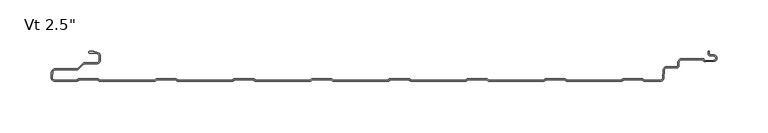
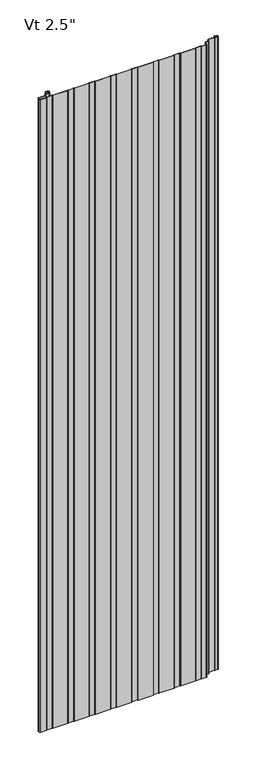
"""IFC4 building model written with IfcOpenShell, lengths in millimetres: plate geometry."""

from ifc_helpers import new_model, si_unit, point, frame_2d, origin, origin_with_axes, place, context, project, spatial, polyline, circle_curve, trimmed, segment, composite_curve, outline, extrude, source, transform, mapped, element, save


def plate_8e5ef11d(model_context):
    return source(origin(), model_context, "Body", "SweptSolid", [
        extrude(outline(composite_curve([segment(polyline([(-315.4415934, -63.4997378), (-337.2521176, -63.4997378)]), True, "CONTINUOUS"), segment(trimmed(circle_curve(frame_2d((-337.2521176, -59.9294985)), 3.5702393), [point((-337.2521176, -63.4997378))], [point((-340.808762, -59.6182281))], False, "CARTESIAN"), True, "CONTINUOUS"), segment(polyline([(-340.808762, -59.6182281), (-340.3690675, -54.5941815)]), True, "CONTINUOUS"), segment(trimmed(circle_curve(frame_2d((-336.7198392, -55.2049826)), 3.6999926), [point((-340.3690675, -54.5941815))], [point((-336.7198392, -51.50499))], False, "CARTESIAN"), True, "CONTINUOUS"), segment(polyline([(-336.7198392, -51.50499), (-315.5773997, -51.50499)]), True, "CONTINUOUS"), segment(trimmed(circle_curve(frame_2d((-315.5773997, -50.2049926)), 1.2999974), [point((-315.5773997, -51.50499))], [point((-314.6581627, -51.1242296))], True, "CARTESIAN"), True, "CONTINUOUS"), segment(polyline([(-314.6581627, -51.1242296), (-309.8297453, -46.2958121)]), True, "CONTINUOUS"), segment(trimmed(circle_curve(frame_2d((-307.9205608, -48.2049966)), 2.6999946), [point((-309.8297453, -46.2958121))], [point((-307.9205608, -45.505002))], False, "CARTESIAN"), True, "CONTINUOUS"), segment(polyline([(-307.9205608, -45.505002), (-296.1096717, -45.505002)]), True, "CONTINUOUS"), segment(trimmed(circle_curve(frame_2d((-296.1096717, -43.1550067)), 2.3499953), [point((-296.1096717, -45.505002))], [point((-293.7596764, -43.1550067))], True, "CARTESIAN"), True, "CONTINUOUS"), segment(polyline([(-293.7596764, -43.1550067), (-293.7596764, -38.7550155)]), True, "CONTINUOUS"), segment(trimmed(circle_curve(frame_2d((-296.1096717, -38.7550155)), 2.3499953), [point((-293.7596764, -38.7550155))], [point((-296.1096717, -36.4050202))], True, "CARTESIAN"), True, "CONTINUOUS"), segment(polyline([(-296.1096717, -36.4050202), (-302.6289779, -36.4050202)]), True, "CONTINUOUS"), segment(trimmed(circle_curve(frame_2d((-302.5686908, -35.206538)), 1.1999976), [point((-302.6289779, -36.4050202))], [point((-303.7683001, -35.1760161))], False, "CARTESIAN"), True, "CONTINUOUS"), segment(trimmed(circle_curve(frame_2d((-302.5686908, -35.206538)), 1.1999976), [point((-303.7683001, -35.1760161))], [point((-302.5671761, -34.0065413))], False, "CARTESIAN"), True, "CONTINUOUS"), segment(polyline([(-302.5671761, -34.0065413), (-298.8087827, -34.0065413), (-298.8087827, -35.4050202), (-296.1096717, -35.4050202)]), True, "CONTINUOUS"), segment(trimmed(circle_curve(frame_2d((-296.1096717, -38.7550155)), 3.3499953), [point((-296.1096717, -35.4050202))], [point((-292.7596764, -38.7550155))], False, "CARTESIAN"), True, "CONTINUOUS"), segment(polyline([(-292.7596764, -38.7550155), (-292.7596764, -43.1550067)]), True, "CONTINUOUS"), segment(trimmed(circle_curve(frame_2d((-296.1096717, -43.1550067)), 3.3499953), [point((-292.7596764, -43.1550067))], [point((-296.1096717, -46.505002))], False, "CARTESIAN"), True, "CONTINUOUS"), segment(polyline([(-296.1096717, -46.505002), (-307.9205608, -46.505002)]), True, "CONTINUOUS"), segment(trimmed(circle_curve(frame_2d((-307.9205608, -48.2049966)), 1.6999946), [point((-307.9205608, -46.505002))], [point((-309.1226385, -47.0029189))], True, "CARTESIAN"), True, "CONTINUOUS"), segment(polyline([(-309.1226385, -47.0029189), (-314.6247096, -52.50499), (-336.7198392, -52.50499)]), True, "CONTINUOUS"), segment(trimmed(circle_curve(frame_2d((-336.7198392, -55.2049826)), 2.6999926), [point((-336.7198392, -52.50499))], [point((-339.3765709, -54.723592))], True, "CARTESIAN"), True, "CONTINUOUS"), segment(polyline([(-339.3765709, -54.723592), (-339.8125699, -59.7054129)]), True, "CONTINUOUS"), segment(trimmed(circle_curve(frame_2d((-337.2521176, -59.9294985)), 2.5702393), [point((-339.8125699, -59.7054129))], [point((-337.2521176, -62.4997378))], True, "CARTESIAN"), True, "CONTINUOUS"), segment(polyline([(-337.2521176, -62.4997378), (-315.2790962, -62.4997378), (-314.0791277, -61.2997693), (-294.3597151, -61.2997693), (-293.1594844, -62.5), (-239.0793527, -62.5), (-237.879122, -61.2997693), (-218.1597095, -61.2997693), (-216.9594787, -62.5), (-162.879347, -62.5), (-161.6791163, -61.2997693), (-141.9597038, -61.2997693), (-140.7594731, -62.5), (-86.6793413, -62.5), (-85.4791106, -61.2997693), (-65.7596981, -61.2997693), (-64.5594674, -62.5), (-10.4793356, -62.5), (-9.2791049, -61.2997693), (10.4403076, -61.2997693), (11.6405383, -62.5), (65.7206701, -62.5), (66.9209008, -61.2997693), (86.6403133, -61.2997693), (87.840544, -62.5), (141.9206758, -62.5), (143.1209065, -61.2997693), (162.840319, -61.2997693), (164.0405497, -62.5), (218.1206815, -62.5), (219.3209122, -61.2997693), (239.0403247, -61.2997693), (240.2396538, -62.4990984), (256.3384359, -62.4990984)]), True, "CONTINUOUS"), segment(trimmed(circle_curve(frame_2d((256.3384359, -60.5491043)), 1.9499941), [point((256.3384359, -62.4990984))], [point((258.2810097, -60.7190575))], True, "CARTESIAN"), True, "CONTINUOUS"), segment(polyline([(258.2810097, -60.7190575), (259.0215397, -52.254761)]), True, "CONTINUOUS"), segment(trimmed(circle_curve(frame_2d((262.0400056, -52.5188426)), 3.0299959), [point((259.0215397, -52.254761))], [point((262.1657441, -49.4914567))], False, "CARTESIAN"), True, "CONTINUOUS"), segment(polyline([(262.1657441, -49.4914567), (272.2595941, -49.4914567)]), True, "CONTINUOUS"), segment(trimmed(circle_curve(frame_2d((272.2595941, -48.5423033)), 0.9491534), [point((272.2595941, -49.4914567))], [point((273.2087475, -48.5423033))], True, "CARTESIAN"), True, "CONTINUOUS"), segment(polyline([(273.2087475, -48.5423033), (273.2087475, -45.4009036)]), True, "CONTINUOUS"), segment(trimmed(circle_curve(frame_2d((277.2087415, -45.4009036)), 3.999994), [point((273.2087475, -45.4009036))], [point((277.2087415, -41.4009096))], False, "CARTESIAN"), True, "CONTINUOUS"), segment(polyline([(277.2087415, -41.4009096), (298.3895515, -41.4009096), (299.5334028, -43.3821181), (308.506811, -43.0268578)]), True, "CONTINUOUS"), segment(trimmed(circle_curve(frame_2d((308.4236622, -40.9266291)), 2.1018739), [point((308.506811, -43.0268578))], [point((308.5037148, -38.8262802))], True, "CARTESIAN"), True, "CONTINUOUS"), segment(polyline([(308.5037148, -38.8262802), (304.4977997, -38.5818653)]), True, "CONTINUOUS"), segment(trimmed(circle_curve(frame_2d((304.6099653, -36.7434917)), 1.8417922), [point((304.4977997, -38.5818653))], [point((302.7686884, -36.7870527))], False, "CARTESIAN"), True, "CONTINUOUS"), segment(polyline([(302.7686884, -36.7870527), (302.7686884, -34.0025061), (303.7686884, -34.0025061), (303.7686884, -36.7729389)]), True, "CONTINUOUS"), segment(trimmed(circle_curve(frame_2d((304.6099653, -36.7434917)), 0.8417922), [point((303.7686884, -36.7729389))], [point((304.5587, -37.5837214))], True, "CARTESIAN"), True, "CONTINUOUS"), segment(polyline([(304.5587, -37.5837214), (308.5543204, -37.8275082)]), True, "CONTINUOUS"), segment(trimmed(circle_curve(frame_2d((308.4236622, -40.9266291)), 3.1018739), [point((308.5543204, -37.8275082))], [point((308.5463704, -44.026075))], False, "CARTESIAN"), True, "CONTINUOUS"), segment(polyline([(308.5463704, -44.026075), (299.8344401, -44.3709833)]), True, "CONTINUOUS"), segment(trimmed(circle_curve(frame_2d((299.787224, -42.9217552)), 1.4499971), [point((299.8344401, -44.3709833))], [point((298.5314897, -43.6467537))], False, "CARTESIAN"), True, "CONTINUOUS"), segment(polyline([(298.5314897, -43.6467537), (297.8122013, -42.4009096), (277.2087415, -42.4009096)]), True, "CONTINUOUS"), segment(trimmed(circle_curve(frame_2d((277.2087415, -45.4009036)), 2.999994), [point((277.2087415, -42.4009096))], [point((274.2087475, -45.4009036))], True, "CARTESIAN"), True, "CONTINUOUS"), segment(polyline([(274.2087475, -45.4009036), (274.2087475, -48.5423033)]), True, "CONTINUOUS"), segment(trimmed(circle_curve(frame_2d((272.2595941, -48.5423033)), 1.9491534), [point((274.2087475, -48.5423033))], [point((272.2595941, -50.4914567))], False, "CARTESIAN"), True, "CONTINUOUS"), segment(polyline([(272.2595941, -50.4914567), (262.1429135, -50.4914567)]), True, "CONTINUOUS"), segment(trimmed(circle_curve(frame_2d((262.0400056, -52.5188426)), 2.0299959), [point((262.1429135, -50.4914567))], [point((260.0177344, -52.3419168))], True, "CARTESIAN"), True, "CONTINUOUS"), segment(polyline([(260.0177344, -52.3419168), (259.2772044, -60.8062132)]), True, "CONTINUOUS"), segment(trimmed(circle_curve(frame_2d((256.3384359, -60.5491043)), 2.9499941), [point((259.2772044, -60.8062132))], [point((256.3384359, -63.4990984))], False, "CARTESIAN"), True, "CONTINUOUS"), segment(polyline([(256.3384359, -63.4990984), (240.4528361, -63.4990984)]), True, "CONTINUOUS"), segment(trimmed(circle_curve(frame_2d((240.4020209, -62.1000237)), 1.3999972), [point((240.4528361, -63.4990984))], [point((239.3579701, -63.0327349))], False, "CARTESIAN"), True, "CONTINUOUS"), segment(polyline([(239.3579701, -63.0327349), (238.6250045, -62.2997693), (219.7343353, -62.2997693), (219.0013906, -63.032714)]), True, "CONTINUOUS"), segment(trimmed(circle_curve(frame_2d((217.9573398, -62.1000028)), 1.3999972), [point((219.0013906, -63.032714))], [point((217.9573398, -63.5))], False, "CARTESIAN"), True, "CONTINUOUS"), segment(polyline([(217.9573398, -63.5), (164.2098266, -63.5)]), True, "CONTINUOUS"), segment(trimmed(circle_curve(frame_2d((164.2021733, -62.1000237)), 1.3999972), [point((164.2098266, -63.5))], [point((163.1581225, -63.0327349))], False, "CARTESIAN"), True, "CONTINUOUS"), segment(polyline([(163.1581225, -63.0327349), (162.4251569, -62.2997693), (143.5344877, -62.2997693), (142.801543, -63.032714)]), True, "CONTINUOUS"), segment(trimmed(circle_curve(frame_2d((141.7574922, -62.1000028)), 1.3999972), [point((142.801543, -63.032714))], [point((141.7574922, -63.5))], False, "CARTESIAN"), True, "CONTINUOUS"), segment(polyline([(141.7574922, -63.5), (88.009979, -63.5)]), True, "CONTINUOUS"), segment(trimmed(circle_curve(frame_2d((88.0023257, -62.1000237)), 1.3999972), [point((88.009979, -63.5))], [point((86.9582749, -63.0327349))], False, "CARTESIAN"), True, "CONTINUOUS"), segment(polyline([(86.9582749, -63.0327349), (86.2253093, -62.2997693), (67.3346401, -62.2997693), (66.6016954, -63.032714)]), True, "CONTINUOUS"), segment(trimmed(circle_curve(frame_2d((65.5576446, -62.1000028)), 1.3999972), [point((66.6016954, -63.032714))], [point((65.5576446, -63.5))], False, "CARTESIAN"), True, "CONTINUOUS"), segment(polyline([(65.5576446, -63.5), (11.8101314, -63.5)]), True, "CONTINUOUS"), segment(trimmed(circle_curve(frame_2d((11.8024781, -62.1000237)), 1.3999972), [point((11.8101314, -63.5))], [point((10.7584273, -63.0327349))], False, "CARTESIAN"), True, "CONTINUOUS"), segment(polyline([(10.7584273, -63.0327349), (10.0254617, -62.2997693), (-8.8652075, -62.2997693), (-9.5981522, -63.032714)]), True, "CONTINUOUS"), segment(trimmed(circle_curve(frame_2d((-10.642203, -62.1000028)), 1.3999972), [point((-9.5981522, -63.032714))], [point((-10.642203, -63.5))], False, "CARTESIAN"), True, "CONTINUOUS"), segment(polyline([(-10.642203, -63.5), (-64.3897162, -63.5)]), True, "CONTINUOUS"), segment(trimmed(circle_curve(frame_2d((-64.3973695, -62.1000237)), 1.3999972), [point((-64.3897162, -63.5))], [point((-65.4414203, -63.0327349))], False, "CARTESIAN"), True, "CONTINUOUS"), segment(polyline([(-65.4414203, -63.0327349), (-66.1743859, -62.2997693), (-85.0650551, -62.2997693), (-85.7979998, -63.032714)]), True, "CONTINUOUS"), segment(trimmed(circle_curve(frame_2d((-86.8420506, -62.1000028)), 1.3999972), [point((-85.7979998, -63.032714))], [point((-86.8420506, -63.5))], False, "CARTESIAN"), True, "CONTINUOUS"), segment(polyline([(-86.8420506, -63.5), (-140.5895638, -63.5)]), True, "CONTINUOUS"), segment(trimmed(circle_curve(frame_2d((-140.5972171, -62.1000237)), 1.3999972), [point((-140.5895638, -63.5))], [point((-141.6412679, -63.0327349))], False, "CARTESIAN"), True, "CONTINUOUS"), segment(polyline([(-141.6412679, -63.0327349), (-142.3742335, -62.2997693), (-161.2649027, -62.2997693), (-161.9978474, -63.032714)]), True, "CONTINUOUS"), segment(trimmed(circle_curve(frame_2d((-163.0418982, -62.1000028)), 1.3999972), [point((-161.9978474, -63.032714))], [point((-163.0418982, -63.5))], False, "CARTESIAN"), True, "CONTINUOUS"), segment(polyline([(-163.0418982, -63.5), (-216.7894114, -63.5)]), True, "CONTINUOUS"), segment(trimmed(circle_curve(frame_2d((-216.7970647, -62.1000237)), 1.3999972), [point((-216.7894114, -63.5))], [point((-217.8411155, -63.0327349))], False, "CARTESIAN"), True, "CONTINUOUS"), segment(polyline([(-217.8411155, -63.0327349), (-218.5740811, -62.2997693), (-237.4647503, -62.2997693), (-238.197695, -63.032714)]), True, "CONTINUOUS"), segment(trimmed(circle_curve(frame_2d((-239.2417458, -62.1000028)), 1.3999972), [point((-238.197695, -63.032714))], [point((-239.2417458, -63.5))], False, "CARTESIAN"), True, "CONTINUOUS"), segment(polyline([(-239.2417458, -63.5), (-292.989259, -63.5)]), True, "CONTINUOUS"), segment(trimmed(circle_curve(frame_2d((-292.9969123, -62.1000237)), 1.3999972), [point((-292.989259, -63.5))], [point((-294.0409631, -63.0327349))], False, "CARTESIAN"), True, "CONTINUOUS"), segment(polyline([(-294.0409631, -63.0327349), (-294.7739287, -62.2997693), (-313.6649141, -62.2997693), (-314.3976403, -63.0324955)]), True, "CONTINUOUS"), segment(trimmed(circle_curve(frame_2d((-315.4415934, -62.0998717)), 1.3998661), [point((-314.3976403, -63.0324955))], [point((-315.4415934, -63.4997378))], False, "CARTESIAN"), True, "CONTINUOUS")], self_intersect=False)), origin_with_axes(), (0.0, 0.0, 1.0), 2400.0),
    ])


if __name__ == "__main__":
    model = new_model("IFC4")
    model_context = context("Model", 3, world=origin())
    ifc_project = project(units=[si_unit("LENGTHUNIT", "METRE", prefix="MILLI")], contexts=[model_context])
    site = spatial("IfcSite", under=ifc_project)
    building = spatial("IfcBuilding", under=site)
    placement = place(None, origin())
    plate_shape = plate_8e5ef11d(model_context)
    element("IfcPlate", 1, ObjectType="KIP-24-Karrier-KP-R19-CP-Vt-SL3-8in_SL : Vt 2.5\"", at=placement, inside=building, context=model_context, shape_type="MappedRepresentation", body=[
        mapped(plate_shape, transform((0.0, 0.0, 0.0), x_axis=(1.0, 0.0, 0.0), y_axis=(0.0, 1.0, 0.0), z_axis=(0.0, 0.0, 1.0))),
    ])
    save(model, "model.ifc")
